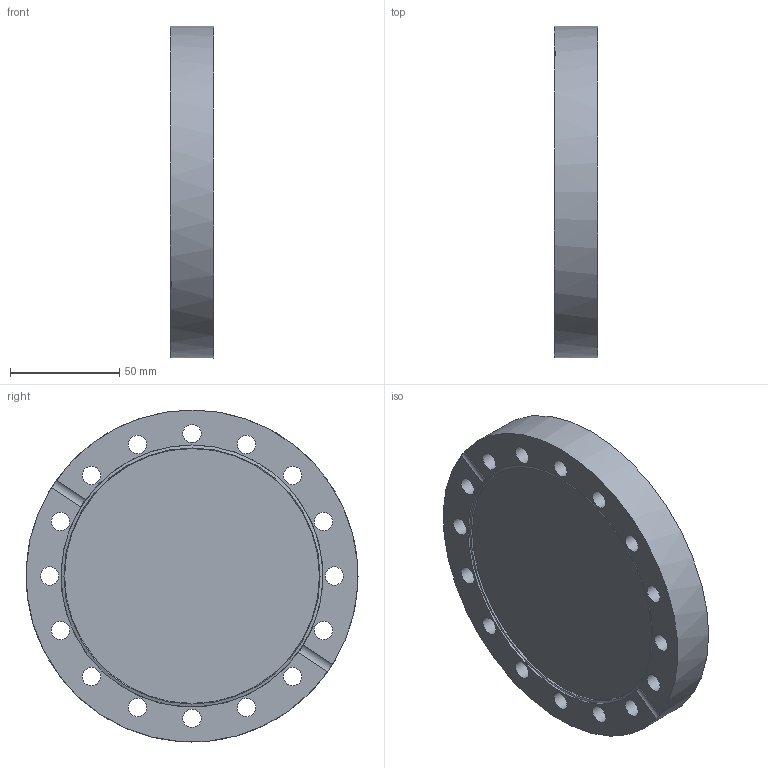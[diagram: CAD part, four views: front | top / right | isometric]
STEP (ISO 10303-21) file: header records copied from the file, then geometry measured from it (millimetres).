
FILE_DESCRIPTION( ( 'Unknown' ), '1' );
FILE_NAME( 'X:/Daten ( aktueller Bestand )/Projekte und Zeichnungen/Solid Edge/STP-Dateien/CF-Teile/7424F4.stp', 'Unknown', ( 'Unknown' ), ( 'Unknown' ), 'PSStep 14.0', 'Unknown', ' ' );
FILE_SCHEMA( ( 'AUTOMOTIVE_DESIGN { 1 0 10303 214 1 1 1 1 }' ) );
Length unit declared in the file: millimetre
Products named in the file (1): 1
Bounding box: 19.9 x 152 x 152 mm (x, y, z)
Volume: 329006.8 mm3; surface area: 53043.1 mm2
Topology: 1 solids, 1 shells, 26 faces, 86 edges, 62 vertices
Faces by surface type: cylinder 20, plane 4, cone 2
Full cylindrical faces by diameter (mm): 8.4 x16, 120 x1, 152 x1
Entity records: 1068 total; most frequent: CARTESIAN_POINT 187, DIRECTION 138, ORIENTED_EDGE 96, EDGE_LOOP 78, AXIS2_PLACEMENT_3D 67, EDGE_CURVE 48, FACE_OUTER_BOUND 44, VERTEX_POINT 44
